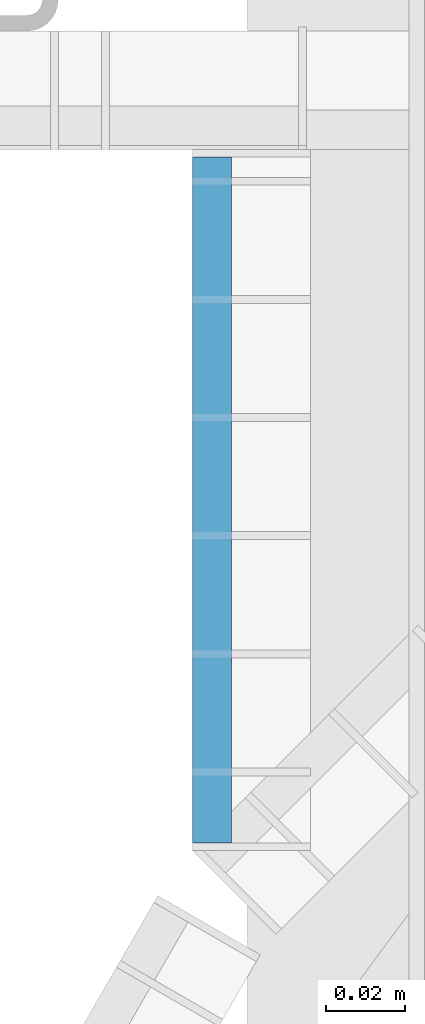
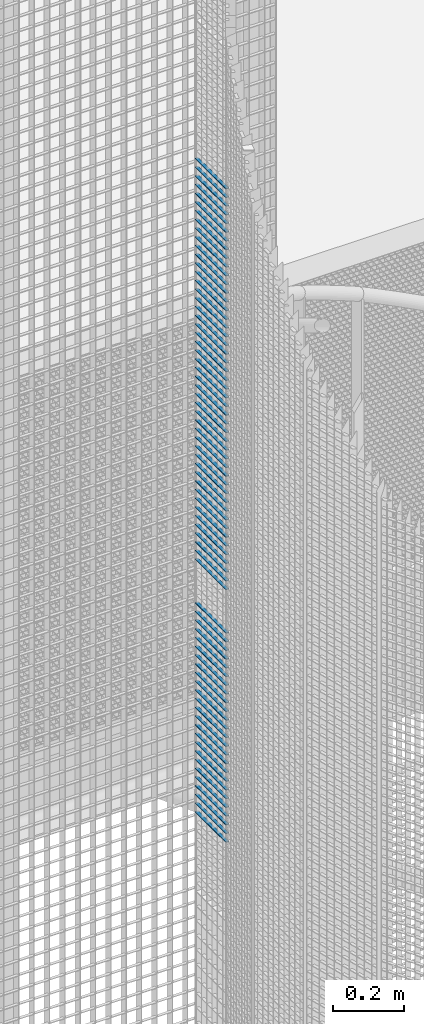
# One storey, part 181 of 1183: 72 beams, 1 element without a shape of its own.
"""IFC2X3 building model written with IfcOpenShell, lengths in millimetres."""

from ifc_helpers import new_model, si_unit, frame, origin_with_axes, origin_2d_with_axis, place, context, subcontext, project, spatial, rectangle, extrude, material, type_object, element, aggregate, save


model = new_model("IFC2X3")

# Units and contexts
model_context = context("Model", 3, precision=1e-05, world=origin_with_axes())
body_context = subcontext(model_context, "Body", "Model", "MODEL_VIEW")
ifc_project = project(units=[si_unit("LENGTHUNIT", "METRE", prefix="MILLI"), si_unit("AREAUNIT", "SQUARE_METRE"), si_unit("VOLUMEUNIT", "CUBIC_METRE"), si_unit("MASSUNIT", "GRAM", prefix="KILO"), si_unit("TIMEUNIT", "SECOND"), si_unit("PLANEANGLEUNIT", "RADIAN"), si_unit("SOLIDANGLEUNIT", "STERADIAN"), si_unit("THERMODYNAMICTEMPERATUREUNIT", "DEGREE_CELSIUS"), si_unit("LUMINOUSINTENSITYUNIT", "LUMEN")], contexts=[model_context])

# Site, building, storey
site_placement = place(None, origin_with_axes())
site = spatial("IfcSite", under=ifc_project, at=site_placement, Name="Undefined", CompositionType="ELEMENT")
building_placement = place(site_placement, origin_with_axes())
building = spatial("IfcBuilding", under=site, at=building_placement, Name="Undefined", CompositionType="ELEMENT")
storey_placement = place(building_placement, origin_with_axes())
storey = spatial("IfcBuildingStorey", under=building, at=storey_placement, Name="Undefined", CompositionType="ELEMENT", Elevation=0.0)

# Assembly, beams
assembly_placement = place(storey_placement, origin_with_axes())
assembly = element("IfcElementAssembly", 1, at=assembly_placement, inside=storey, Name="BORDURE", AssemblyPlace="NOTDEFINED", PredefinedType="NOTDEFINED")
ifc_material = material(Name="STEEL/S235JR")
beam_type = type_object("IfcBeamType", Name="PL2*10", PredefinedType="NOTDEFINED")
beam_1_placement = place(assembly_placement, frame((-884.882567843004, 867.997017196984, 8520.0), z_axis=(-1.0, 0.0, 0.0), x_axis=(0.0, -1.0, 0.0)))
beam_1 = element("IfcBeam", 2, at=beam_1_placement, type_object=beam_type, material=ifc_material, Name="ENTRETOISE", context=body_context, shape_type="SweptSolid", body=[
    extrude(rectangle(XDim=2.0, YDim=10.0, at=origin_2d_with_axis()), frame((174.109999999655, 0.0, 0.0), z_axis=(-1.0, 0.0, 0.0), x_axis=(0.0, -1.0, 0.0)), (0.0, 0.0, 1.0), 174.11),
])
beam_2_placement = place(assembly_placement, frame((-884.882567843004, 867.997017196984, 8490.0), z_axis=(-1.0, 0.0, 0.0), x_axis=(0.0, -1.0, 0.0)))
beam_2 = element("IfcBeam", 3, at=beam_2_placement, type_object=beam_type, material=ifc_material, Name="ENTRETOISE", context=body_context, shape_type="SweptSolid", body=[
    extrude(rectangle(XDim=2.0, YDim=10.0, at=origin_2d_with_axis()), frame((174.109999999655, 0.0, 0.0), z_axis=(-1.0, 0.0, 0.0), x_axis=(0.0, -1.0, 0.0)), (0.0, 0.0, 1.0), 174.11),
])
beam_3_placement = place(assembly_placement, frame((-884.882567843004, 867.997017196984, 8460.0), z_axis=(-1.0, 0.0, 0.0), x_axis=(0.0, -1.0, 0.0)))
beam_3 = element("IfcBeam", 4, at=beam_3_placement, type_object=beam_type, material=ifc_material, Name="ENTRETOISE", context=body_context, shape_type="SweptSolid", body=[
    extrude(rectangle(XDim=2.0, YDim=10.0, at=origin_2d_with_axis()), frame((174.109999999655, 0.0, 0.0), z_axis=(-1.0, 0.0, 0.0), x_axis=(0.0, -1.0, 0.0)), (0.0, 0.0, 1.0), 174.11),
])
beam_4_placement = place(assembly_placement, frame((-884.882567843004, 867.997017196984, 8430.0), z_axis=(-1.0, 0.0, 0.0), x_axis=(0.0, -1.0, 0.0)))
beam_4 = element("IfcBeam", 5, at=beam_4_placement, type_object=beam_type, material=ifc_material, Name="ENTRETOISE", context=body_context, shape_type="SweptSolid", body=[
    extrude(rectangle(XDim=2.0, YDim=10.0, at=origin_2d_with_axis()), frame((174.109999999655, 0.0, 0.0), z_axis=(-1.0, 0.0, 0.0), x_axis=(0.0, -1.0, 0.0)), (0.0, 0.0, 1.0), 174.11),
])
beam_5_placement = place(assembly_placement, frame((-884.882567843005, 867.997017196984, 8400.0), z_axis=(-1.0, 0.0, 0.0), x_axis=(0.0, -1.0, 0.0)))
beam_5 = element("IfcBeam", 6, at=beam_5_placement, type_object=beam_type, material=ifc_material, Name="ENTRETOISE", context=body_context, shape_type="SweptSolid", body=[
    extrude(rectangle(XDim=2.0, YDim=10.0, at=origin_2d_with_axis()), frame((174.109999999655, 0.0, 0.0), z_axis=(-1.0, 0.0, 0.0), x_axis=(0.0, -1.0, 0.0)), (0.0, 0.0, 1.0), 174.11),
])
beam_6_placement = place(assembly_placement, frame((-884.882567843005, 867.997017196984, 8370.0), z_axis=(-1.0, 0.0, 0.0), x_axis=(0.0, -1.0, 0.0)))
beam_6 = element("IfcBeam", 7, at=beam_6_placement, type_object=beam_type, material=ifc_material, Name="ENTRETOISE", context=body_context, shape_type="SweptSolid", body=[
    extrude(rectangle(XDim=2.0, YDim=10.0, at=origin_2d_with_axis()), frame((174.109999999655, 0.0, 0.0), z_axis=(-1.0, 0.0, 0.0), x_axis=(0.0, -1.0, 0.0)), (0.0, 0.0, 1.0), 174.11),
])
beam_7_placement = place(assembly_placement, frame((-884.882567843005, 867.997017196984, 8340.0), z_axis=(-1.0, 0.0, 0.0), x_axis=(0.0, -1.0, 0.0)))
beam_7 = element("IfcBeam", 8, at=beam_7_placement, type_object=beam_type, material=ifc_material, Name="ENTRETOISE", context=body_context, shape_type="SweptSolid", body=[
    extrude(rectangle(XDim=2.0, YDim=10.0, at=origin_2d_with_axis()), frame((174.109999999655, 0.0, 0.0), z_axis=(-1.0, 0.0, 0.0), x_axis=(0.0, -1.0, 0.0)), (0.0, 0.0, 1.0), 174.11),
])
beam_8_placement = place(assembly_placement, frame((-884.882567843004, 867.997017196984, 8310.0), z_axis=(-1.0, 0.0, 0.0), x_axis=(0.0, -1.0, 0.0)))
beam_8 = element("IfcBeam", 9, at=beam_8_placement, type_object=beam_type, material=ifc_material, Name="ENTRETOISE", context=body_context, shape_type="SweptSolid", body=[
    extrude(rectangle(XDim=2.0, YDim=10.0, at=origin_2d_with_axis()), frame((174.109999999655, 0.0, 0.0), z_axis=(-1.0, 0.0, 0.0), x_axis=(0.0, -1.0, 0.0)), (0.0, 0.0, 1.0), 174.11),
])
beam_9_placement = place(assembly_placement, frame((-884.882567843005, 867.997017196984, 8280.0), z_axis=(-1.0, 0.0, 0.0), x_axis=(0.0, -1.0, 0.0)))
beam_9 = element("IfcBeam", 10, at=beam_9_placement, type_object=beam_type, material=ifc_material, Name="ENTRETOISE", context=body_context, shape_type="SweptSolid", body=[
    extrude(rectangle(XDim=2.0, YDim=10.0, at=origin_2d_with_axis()), frame((174.109999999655, 0.0, 0.0), z_axis=(-1.0, 0.0, 0.0), x_axis=(0.0, -1.0, 0.0)), (0.0, 0.0, 1.0), 174.11),
])
beam_10_placement = place(assembly_placement, frame((-884.882567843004, 867.997017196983, 8250.0), z_axis=(-1.0, 0.0, 0.0), x_axis=(0.0, -1.0, 0.0)))
beam_10 = element("IfcBeam", 11, at=beam_10_placement, type_object=beam_type, material=ifc_material, Name="ENTRETOISE", context=body_context, shape_type="SweptSolid", body=[
    extrude(rectangle(XDim=2.0, YDim=10.0, at=origin_2d_with_axis()), frame((174.109999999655, 0.0, 0.0), z_axis=(-1.0, 0.0, 0.0), x_axis=(0.0, -1.0, 0.0)), (0.0, 0.0, 1.0), 174.11),
])
beam_11_placement = place(assembly_placement, frame((-884.882567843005, 867.997017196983, 8220.0), z_axis=(-1.0, 0.0, 0.0), x_axis=(0.0, -1.0, 0.0)))
beam_11 = element("IfcBeam", 12, at=beam_11_placement, type_object=beam_type, material=ifc_material, Name="ENTRETOISE", context=body_context, shape_type="SweptSolid", body=[
    extrude(rectangle(XDim=2.0, YDim=10.0, at=origin_2d_with_axis()), frame((174.109999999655, 0.0, 0.0), z_axis=(-1.0, 0.0, 0.0), x_axis=(0.0, -1.0, 0.0)), (0.0, 0.0, 1.0), 174.11),
])
beam_12_placement = place(assembly_placement, frame((-884.882567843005, 867.997017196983, 8190.0), z_axis=(-1.0, 0.0, 0.0), x_axis=(0.0, -1.0, 0.0)))
beam_12 = element("IfcBeam", 13, at=beam_12_placement, type_object=beam_type, material=ifc_material, Name="ENTRETOISE", context=body_context, shape_type="SweptSolid", body=[
    extrude(rectangle(XDim=2.0, YDim=10.0, at=origin_2d_with_axis()), frame((174.109999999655, 0.0, 0.0), z_axis=(-1.0, 0.0, 0.0), x_axis=(0.0, -1.0, 0.0)), (0.0, 0.0, 1.0), 174.11),
])
beam_13_placement = place(assembly_placement, frame((-884.882567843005, 867.997017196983, 8160.0), z_axis=(-1.0, 0.0, 0.0), x_axis=(0.0, -1.0, 0.0)))
beam_13 = element("IfcBeam", 14, at=beam_13_placement, type_object=beam_type, material=ifc_material, Name="ENTRETOISE", context=body_context, shape_type="SweptSolid", body=[
    extrude(rectangle(XDim=2.0, YDim=10.0, at=origin_2d_with_axis()), frame((174.109999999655, 0.0, 0.0), z_axis=(-1.0, 0.0, 0.0), x_axis=(0.0, -1.0, 0.0)), (0.0, 0.0, 1.0), 174.11),
])
beam_14_placement = place(assembly_placement, frame((-884.882567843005, 867.997017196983, 8130.0), z_axis=(-1.0, 0.0, 0.0), x_axis=(0.0, -1.0, 0.0)))
beam_14 = element("IfcBeam", 15, at=beam_14_placement, type_object=beam_type, material=ifc_material, Name="ENTRETOISE", context=body_context, shape_type="SweptSolid", body=[
    extrude(rectangle(XDim=2.0, YDim=10.0, at=origin_2d_with_axis()), frame((174.109999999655, 0.0, 0.0), z_axis=(-1.0, 0.0, 0.0), x_axis=(0.0, -1.0, 0.0)), (0.0, 0.0, 1.0), 174.11),
])
beam_15_placement = place(assembly_placement, frame((-884.882567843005, 867.997017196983, 8100.0), z_axis=(-1.0, 0.0, 0.0), x_axis=(0.0, -1.0, 0.0)))
beam_15 = element("IfcBeam", 16, at=beam_15_placement, type_object=beam_type, material=ifc_material, Name="ENTRETOISE", context=body_context, shape_type="SweptSolid", body=[
    extrude(rectangle(XDim=2.0, YDim=10.0, at=origin_2d_with_axis()), frame((174.109999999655, 0.0, 0.0), z_axis=(-1.0, 0.0, 0.0), x_axis=(0.0, -1.0, 0.0)), (0.0, 0.0, 1.0), 174.11),
])
beam_16_placement = place(assembly_placement, frame((-884.882567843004, 867.997017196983, 8070.0), z_axis=(-1.0, 0.0, 0.0), x_axis=(0.0, -1.0, 0.0)))
beam_16 = element("IfcBeam", 17, at=beam_16_placement, type_object=beam_type, material=ifc_material, Name="ENTRETOISE", context=body_context, shape_type="SweptSolid", body=[
    extrude(rectangle(XDim=2.0, YDim=10.0, at=origin_2d_with_axis()), frame((174.109999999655, 0.0, 0.0), z_axis=(-1.0, 0.0, 0.0), x_axis=(0.0, -1.0, 0.0)), (0.0, 0.0, 1.0), 174.11),
])
beam_17_placement = place(assembly_placement, frame((-884.882567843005, 867.997017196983, 8040.0), z_axis=(-1.0, 0.0, 0.0), x_axis=(0.0, -1.0, 0.0)))
beam_17 = element("IfcBeam", 18, at=beam_17_placement, type_object=beam_type, material=ifc_material, Name="ENTRETOISE", context=body_context, shape_type="SweptSolid", body=[
    extrude(rectangle(XDim=2.0, YDim=10.0, at=origin_2d_with_axis()), frame((174.109999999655, 0.0, 0.0), z_axis=(-1.0, 0.0, 0.0), x_axis=(0.0, -1.0, 0.0)), (0.0, 0.0, 1.0), 174.11),
])
beam_18_placement = place(assembly_placement, frame((-884.882567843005, 867.997017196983, 8010.0), z_axis=(-1.0, 0.0, 0.0), x_axis=(0.0, -1.0, 0.0)))
beam_18 = element("IfcBeam", 19, at=beam_18_placement, type_object=beam_type, material=ifc_material, Name="ENTRETOISE", context=body_context, shape_type="SweptSolid", body=[
    extrude(rectangle(XDim=2.0, YDim=10.0, at=origin_2d_with_axis()), frame((174.109999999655, 0.0, 0.0), z_axis=(-1.0, 0.0, 0.0), x_axis=(0.0, -1.0, 0.0)), (0.0, 0.0, 1.0), 174.11),
])
beam_19_placement = place(assembly_placement, frame((-884.882567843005, 867.997017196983, 7980.0), z_axis=(-1.0, 0.0, 0.0), x_axis=(0.0, -1.0, 0.0)))
beam_19 = element("IfcBeam", 20, at=beam_19_placement, type_object=beam_type, material=ifc_material, Name="ENTRETOISE", context=body_context, shape_type="SweptSolid", body=[
    extrude(rectangle(XDim=2.0, YDim=10.0, at=origin_2d_with_axis()), frame((174.109999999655, 0.0, 0.0), z_axis=(-1.0, 0.0, 0.0), x_axis=(0.0, -1.0, 0.0)), (0.0, 0.0, 1.0), 174.11),
])
beam_20_placement = place(assembly_placement, frame((-884.882567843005, 867.997017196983, 7950.0), z_axis=(-1.0, 0.0, 0.0), x_axis=(0.0, -1.0, 0.0)))
beam_20 = element("IfcBeam", 21, at=beam_20_placement, type_object=beam_type, material=ifc_material, Name="ENTRETOISE", context=body_context, shape_type="SweptSolid", body=[
    extrude(rectangle(XDim=2.0, YDim=10.0, at=origin_2d_with_axis()), frame((174.109999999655, 0.0, 0.0), z_axis=(-1.0, 0.0, 0.0), x_axis=(0.0, -1.0, 0.0)), (0.0, 0.0, 1.0), 174.11),
])
beam_21_placement = place(assembly_placement, frame((-884.882567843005, 867.997017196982, 7920.0), z_axis=(-1.0, 0.0, 0.0), x_axis=(0.0, -1.0, 0.0)))
beam_21 = element("IfcBeam", 22, at=beam_21_placement, type_object=beam_type, material=ifc_material, Name="ENTRETOISE", context=body_context, shape_type="SweptSolid", body=[
    extrude(rectangle(XDim=2.0, YDim=10.0, at=origin_2d_with_axis()), frame((174.109999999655, 0.0, 0.0), z_axis=(-1.0, 0.0, 0.0), x_axis=(0.0, -1.0, 0.0)), (0.0, 0.0, 1.0), 174.11),
])
beam_22_placement = place(assembly_placement, frame((-884.882567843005, 867.997017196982, 7890.0), z_axis=(-1.0, 0.0, 0.0), x_axis=(0.0, -1.0, 0.0)))
beam_22 = element("IfcBeam", 23, at=beam_22_placement, type_object=beam_type, material=ifc_material, Name="ENTRETOISE", context=body_context, shape_type="SweptSolid", body=[
    extrude(rectangle(XDim=2.0, YDim=10.0, at=origin_2d_with_axis()), frame((174.109999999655, 0.0, 0.0), z_axis=(-1.0, 0.0, 0.0), x_axis=(0.0, -1.0, 0.0)), (0.0, 0.0, 1.0), 174.11),
])
beam_23_placement = place(assembly_placement, frame((-884.882567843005, 867.997017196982, 7860.0), z_axis=(-1.0, 0.0, 0.0), x_axis=(0.0, -1.0, 0.0)))
beam_23 = element("IfcBeam", 24, at=beam_23_placement, type_object=beam_type, material=ifc_material, Name="ENTRETOISE", context=body_context, shape_type="SweptSolid", body=[
    extrude(rectangle(XDim=2.0, YDim=10.0, at=origin_2d_with_axis()), frame((174.109999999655, 0.0, 0.0), z_axis=(-1.0, 0.0, 0.0), x_axis=(0.0, -1.0, 0.0)), (0.0, 0.0, 1.0), 174.11),
])
beam_24_placement = place(assembly_placement, frame((-884.882567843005, 867.997017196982, 7830.0), z_axis=(-1.0, 0.0, 0.0), x_axis=(0.0, -1.0, 0.0)))
beam_24 = element("IfcBeam", 25, at=beam_24_placement, type_object=beam_type, material=ifc_material, Name="ENTRETOISE", context=body_context, shape_type="SweptSolid", body=[
    extrude(rectangle(XDim=2.0, YDim=10.0, at=origin_2d_with_axis()), frame((174.109999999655, 0.0, 0.0), z_axis=(-1.0, 0.0, 0.0), x_axis=(0.0, -1.0, 0.0)), (0.0, 0.0, 1.0), 174.11),
])
beam_25_placement = place(assembly_placement, frame((-884.882567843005, 867.997017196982, 7800.0), z_axis=(-1.0, 0.0, 0.0), x_axis=(0.0, -1.0, 0.0)))
beam_25 = element("IfcBeam", 26, at=beam_25_placement, type_object=beam_type, material=ifc_material, Name="ENTRETOISE", context=body_context, shape_type="SweptSolid", body=[
    extrude(rectangle(XDim=2.0, YDim=10.0, at=origin_2d_with_axis()), frame((174.109999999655, 0.0, 0.0), z_axis=(-1.0, 0.0, 0.0), x_axis=(0.0, -1.0, 0.0)), (0.0, 0.0, 1.0), 174.11),
])
beam_26_placement = place(assembly_placement, frame((-884.882567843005, 867.997017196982, 7770.0), z_axis=(-1.0, 0.0, 0.0), x_axis=(0.0, -1.0, 0.0)))
beam_26 = element("IfcBeam", 27, at=beam_26_placement, type_object=beam_type, material=ifc_material, Name="ENTRETOISE", context=body_context, shape_type="SweptSolid", body=[
    extrude(rectangle(XDim=2.0, YDim=10.0, at=origin_2d_with_axis()), frame((174.109999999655, 0.0, 0.0), z_axis=(-1.0, 0.0, 0.0), x_axis=(0.0, -1.0, 0.0)), (0.0, 0.0, 1.0), 174.11),
])
beam_27_placement = place(assembly_placement, frame((-884.882567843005, 867.997017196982, 7740.0), z_axis=(-1.0, 0.0, 0.0), x_axis=(0.0, -1.0, 0.0)))
beam_27 = element("IfcBeam", 28, at=beam_27_placement, type_object=beam_type, material=ifc_material, Name="ENTRETOISE", context=body_context, shape_type="SweptSolid", body=[
    extrude(rectangle(XDim=2.0, YDim=10.0, at=origin_2d_with_axis()), frame((174.109999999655, 0.0, 0.0), z_axis=(-1.0, 0.0, 0.0), x_axis=(0.0, -1.0, 0.0)), (0.0, 0.0, 1.0), 174.11),
])
beam_28_placement = place(assembly_placement, frame((-884.882567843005, 867.997017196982, 7710.0), z_axis=(-1.0, 0.0, 0.0), x_axis=(0.0, -1.0, 0.0)))
beam_28 = element("IfcBeam", 29, at=beam_28_placement, type_object=beam_type, material=ifc_material, Name="ENTRETOISE", context=body_context, shape_type="SweptSolid", body=[
    extrude(rectangle(XDim=2.0, YDim=10.0, at=origin_2d_with_axis()), frame((174.109999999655, 0.0, 0.0), z_axis=(-1.0, 0.0, 0.0), x_axis=(0.0, -1.0, 0.0)), (0.0, 0.0, 1.0), 174.11),
])
beam_29_placement = place(assembly_placement, frame((-884.882567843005, 867.997017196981, 7680.0), z_axis=(-1.0, 0.0, 0.0), x_axis=(0.0, -1.0, 0.0)))
beam_29 = element("IfcBeam", 30, at=beam_29_placement, type_object=beam_type, material=ifc_material, Name="ENTRETOISE", context=body_context, shape_type="SweptSolid", body=[
    extrude(rectangle(XDim=2.0, YDim=10.0, at=origin_2d_with_axis()), frame((174.109999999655, 0.0, 0.0), z_axis=(-1.0, 0.0, 0.0), x_axis=(0.0, -1.0, 0.0)), (0.0, 0.0, 1.0), 174.11),
])
beam_30_placement = place(assembly_placement, frame((-884.882567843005, 867.997017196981, 7650.0), z_axis=(-1.0, 0.0, 0.0), x_axis=(0.0, -1.0, 0.0)))
beam_30 = element("IfcBeam", 31, at=beam_30_placement, type_object=beam_type, material=ifc_material, Name="ENTRETOISE", context=body_context, shape_type="SweptSolid", body=[
    extrude(rectangle(XDim=2.0, YDim=10.0, at=origin_2d_with_axis()), frame((174.109999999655, 0.0, 0.0), z_axis=(-1.0, 0.0, 0.0), x_axis=(0.0, -1.0, 0.0)), (0.0, 0.0, 1.0), 174.11),
])
beam_31_placement = place(assembly_placement, frame((-884.882567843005, 867.997017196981, 7620.0), z_axis=(-1.0, 0.0, 0.0), x_axis=(0.0, -1.0, 0.0)))
beam_31 = element("IfcBeam", 32, at=beam_31_placement, type_object=beam_type, material=ifc_material, Name="ENTRETOISE", context=body_context, shape_type="SweptSolid", body=[
    extrude(rectangle(XDim=2.0, YDim=10.0, at=origin_2d_with_axis()), frame((174.109999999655, 0.0, 0.0), z_axis=(-1.0, 0.0, 0.0), x_axis=(0.0, -1.0, 0.0)), (0.0, 0.0, 1.0), 174.11),
])
beam_32_placement = place(assembly_placement, frame((-884.882567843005, 867.997017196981, 7590.0), z_axis=(-1.0, 0.0, 0.0), x_axis=(0.0, -1.0, 0.0)))
beam_32 = element("IfcBeam", 33, at=beam_32_placement, type_object=beam_type, material=ifc_material, Name="ENTRETOISE", context=body_context, shape_type="SweptSolid", body=[
    extrude(rectangle(XDim=2.0, YDim=10.0, at=origin_2d_with_axis()), frame((174.109999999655, 0.0, 0.0), z_axis=(-1.0, 0.0, 0.0), x_axis=(0.0, -1.0, 0.0)), (0.0, 0.0, 1.0), 174.11),
])
beam_33_placement = place(assembly_placement, frame((-884.882567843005, 867.997017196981, 7560.0), z_axis=(-1.0, 0.0, 0.0), x_axis=(0.0, -1.0, 0.0)))
beam_33 = element("IfcBeam", 34, at=beam_33_placement, type_object=beam_type, material=ifc_material, Name="ENTRETOISE", context=body_context, shape_type="SweptSolid", body=[
    extrude(rectangle(XDim=2.0, YDim=10.0, at=origin_2d_with_axis()), frame((174.109999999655, 0.0, 0.0), z_axis=(-1.0, 0.0, 0.0), x_axis=(0.0, -1.0, 0.0)), (0.0, 0.0, 1.0), 174.11),
])
beam_34_placement = place(assembly_placement, frame((-884.882567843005, 867.997017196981, 7530.0), z_axis=(-1.0, 0.0, 0.0), x_axis=(0.0, -1.0, 0.0)))
beam_34 = element("IfcBeam", 35, at=beam_34_placement, type_object=beam_type, material=ifc_material, Name="ENTRETOISE", context=body_context, shape_type="SweptSolid", body=[
    extrude(rectangle(XDim=2.0, YDim=10.0, at=origin_2d_with_axis()), frame((174.109999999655, 0.0, 0.0), z_axis=(-1.0, 0.0, 0.0), x_axis=(0.0, -1.0, 0.0)), (0.0, 0.0, 1.0), 174.11),
])
beam_35_placement = place(assembly_placement, frame((-884.882567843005, 867.997017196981, 7500.0), z_axis=(-1.0, 0.0, 0.0), x_axis=(0.0, -1.0, 0.0)))
beam_35 = element("IfcBeam", 36, at=beam_35_placement, type_object=beam_type, material=ifc_material, Name="ENTRETOISE", context=body_context, shape_type="SweptSolid", body=[
    extrude(rectangle(XDim=2.0, YDim=10.0, at=origin_2d_with_axis()), frame((174.109999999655, 0.0, 0.0), z_axis=(-1.0, 0.0, 0.0), x_axis=(0.0, -1.0, 0.0)), (0.0, 0.0, 1.0), 174.11),
])
beam_36_placement = place(assembly_placement, frame((-884.882567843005, 867.997017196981, 7470.0), z_axis=(-1.0, 0.0, 0.0), x_axis=(0.0, -1.0, 0.0)))
beam_36 = element("IfcBeam", 37, at=beam_36_placement, type_object=beam_type, material=ifc_material, Name="ENTRETOISE", context=body_context, shape_type="SweptSolid", body=[
    extrude(rectangle(XDim=2.0, YDim=10.0, at=origin_2d_with_axis()), frame((174.109999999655, 0.0, 0.0), z_axis=(-1.0, 0.0, 0.0), x_axis=(0.0, -1.0, 0.0)), (0.0, 0.0, 1.0), 174.11),
])
beam_37_placement = place(assembly_placement, frame((-884.882567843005, 867.997017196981, 7440.0), z_axis=(-1.0, 0.0, 0.0), x_axis=(0.0, -1.0, 0.0)))
beam_37 = element("IfcBeam", 38, at=beam_37_placement, type_object=beam_type, material=ifc_material, Name="ENTRETOISE", context=body_context, shape_type="SweptSolid", body=[
    extrude(rectangle(XDim=2.0, YDim=10.0, at=origin_2d_with_axis()), frame((174.109999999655, 0.0, 0.0), z_axis=(-1.0, 0.0, 0.0), x_axis=(0.0, -1.0, 0.0)), (0.0, 0.0, 1.0), 174.11),
])
beam_38_placement = place(assembly_placement, frame((-884.882567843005, 867.997017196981, 7410.0), z_axis=(-1.0, 0.0, 0.0), x_axis=(0.0, -1.0, 0.0)))
beam_38 = element("IfcBeam", 39, at=beam_38_placement, type_object=beam_type, material=ifc_material, Name="ENTRETOISE", context=body_context, shape_type="SweptSolid", body=[
    extrude(rectangle(XDim=2.0, YDim=10.0, at=origin_2d_with_axis()), frame((174.109999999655, 0.0, 0.0), z_axis=(-1.0, 0.0, 0.0), x_axis=(0.0, -1.0, 0.0)), (0.0, 0.0, 1.0), 174.11),
])
beam_39_placement = place(assembly_placement, frame((-884.882567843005, 867.99701719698, 7380.0), z_axis=(-1.0, 0.0, 0.0), x_axis=(0.0, -1.0, 0.0)))
beam_39 = element("IfcBeam", 40, at=beam_39_placement, type_object=beam_type, material=ifc_material, Name="ENTRETOISE", context=body_context, shape_type="SweptSolid", body=[
    extrude(rectangle(XDim=2.0, YDim=10.0, at=origin_2d_with_axis()), frame((174.109999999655, 0.0, 0.0), z_axis=(-1.0, 0.0, 0.0), x_axis=(0.0, -1.0, 0.0)), (0.0, 0.0, 1.0), 174.11),
])
beam_40_placement = place(assembly_placement, frame((-884.882567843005, 867.99701719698, 7350.0), z_axis=(-1.0, 0.0, 0.0), x_axis=(0.0, -1.0, 0.0)))
beam_40 = element("IfcBeam", 41, at=beam_40_placement, type_object=beam_type, material=ifc_material, Name="ENTRETOISE", context=body_context, shape_type="SweptSolid", body=[
    extrude(rectangle(XDim=2.0, YDim=10.0, at=origin_2d_with_axis()), frame((174.109999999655, 0.0, 0.0), z_axis=(-1.0, 0.0, 0.0), x_axis=(0.0, -1.0, 0.0)), (0.0, 0.0, 1.0), 174.11),
])
beam_41_placement = place(assembly_placement, frame((-884.882567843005, 867.99701719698, 7320.0), z_axis=(-1.0, 0.0, 0.0), x_axis=(0.0, -1.0, 0.0)))
beam_41 = element("IfcBeam", 42, at=beam_41_placement, type_object=beam_type, material=ifc_material, Name="ENTRETOISE", context=body_context, shape_type="SweptSolid", body=[
    extrude(rectangle(XDim=2.0, YDim=10.0, at=origin_2d_with_axis()), frame((174.109999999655, 0.0, 0.0), z_axis=(-1.0, 0.0, 0.0), x_axis=(0.0, -1.0, 0.0)), (0.0, 0.0, 1.0), 174.11),
])
beam_42_placement = place(assembly_placement, frame((-884.882567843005, 867.99701719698, 7290.0), z_axis=(-1.0, 0.0, 0.0), x_axis=(0.0, -1.0, 0.0)))
beam_42 = element("IfcBeam", 43, at=beam_42_placement, type_object=beam_type, material=ifc_material, Name="ENTRETOISE", context=body_context, shape_type="SweptSolid", body=[
    extrude(rectangle(XDim=2.0, YDim=10.0, at=origin_2d_with_axis()), frame((174.109999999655, 0.0, 0.0), z_axis=(-1.0, 0.0, 0.0), x_axis=(0.0, -1.0, 0.0)), (0.0, 0.0, 1.0), 174.11),
])
beam_43_placement = place(assembly_placement, frame((-884.882567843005, 867.99701719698, 7260.0), z_axis=(-1.0, 0.0, 0.0), x_axis=(0.0, -1.0, 0.0)))
beam_43 = element("IfcBeam", 44, at=beam_43_placement, type_object=beam_type, material=ifc_material, Name="ENTRETOISE", context=body_context, shape_type="SweptSolid", body=[
    extrude(rectangle(XDim=2.0, YDim=10.0, at=origin_2d_with_axis()), frame((174.109999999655, 0.0, 0.0), z_axis=(-1.0, 0.0, 0.0), x_axis=(0.0, -1.0, 0.0)), (0.0, 0.0, 1.0), 174.11),
])
beam_44_placement = place(assembly_placement, frame((-884.882567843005, 867.99701719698, 7230.0), z_axis=(-1.0, 0.0, 0.0), x_axis=(0.0, -1.0, 0.0)))
beam_44 = element("IfcBeam", 45, at=beam_44_placement, type_object=beam_type, material=ifc_material, Name="ENTRETOISE", context=body_context, shape_type="SweptSolid", body=[
    extrude(rectangle(XDim=2.0, YDim=10.0, at=origin_2d_with_axis()), frame((174.109999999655, 0.0, 0.0), z_axis=(-1.0, 0.0, 0.0), x_axis=(0.0, -1.0, 0.0)), (0.0, 0.0, 1.0), 174.11),
])
beam_45_placement = place(assembly_placement, frame((-884.882567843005, 867.99701719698, 7200.0), z_axis=(-1.0, 0.0, 0.0), x_axis=(0.0, -1.0, 0.0)))
beam_45 = element("IfcBeam", 46, at=beam_45_placement, type_object=beam_type, material=ifc_material, Name="ENTRETOISE", context=body_context, shape_type="SweptSolid", body=[
    extrude(rectangle(XDim=2.0, YDim=10.0, at=origin_2d_with_axis()), frame((174.109999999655, 0.0, 0.0), z_axis=(-1.0, 0.0, 0.0), x_axis=(0.0, -1.0, 0.0)), (0.0, 0.0, 1.0), 174.11),
])
beam_46_placement = place(assembly_placement, frame((-884.882567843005, 867.99701719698, 7170.0), z_axis=(-1.0, 0.0, 0.0), x_axis=(0.0, -1.0, 0.0)))
beam_46 = element("IfcBeam", 47, at=beam_46_placement, type_object=beam_type, material=ifc_material, Name="ENTRETOISE", context=body_context, shape_type="SweptSolid", body=[
    extrude(rectangle(XDim=2.0, YDim=10.0, at=origin_2d_with_axis()), frame((174.109999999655, 0.0, 0.0), z_axis=(-1.0, 0.0, 0.0), x_axis=(0.0, -1.0, 0.0)), (0.0, 0.0, 1.0), 174.11),
])
beam_47_placement = place(assembly_placement, frame((-884.882567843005, 867.99701719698, 7140.0), z_axis=(-1.0, 0.0, 0.0), x_axis=(0.0, -1.0, 0.0)))
beam_47 = element("IfcBeam", 48, at=beam_47_placement, type_object=beam_type, material=ifc_material, Name="ENTRETOISE", context=body_context, shape_type="SweptSolid", body=[
    extrude(rectangle(XDim=2.0, YDim=10.0, at=origin_2d_with_axis()), frame((174.109999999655, 0.0, 0.0), z_axis=(-1.0, 0.0, 0.0), x_axis=(0.0, -1.0, 0.0)), (0.0, 0.0, 1.0), 174.11),
])
beam_48_placement = place(assembly_placement, frame((-884.882567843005, 867.997017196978, 6720.0), z_axis=(-1.0, 0.0, 0.0), x_axis=(0.0, -1.0, 0.0)))
beam_48 = element("IfcBeam", 49, at=beam_48_placement, type_object=beam_type, material=ifc_material, Name="ENTRETOISE", context=body_context, shape_type="SweptSolid", body=[
    extrude(rectangle(XDim=2.0, YDim=10.0, at=origin_2d_with_axis()), frame((174.109999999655, 0.0, 0.0), z_axis=(-1.0, 0.0, 0.0), x_axis=(0.0, -1.0, 0.0)), (0.0, 0.0, 1.0), 174.11),
])
beam_49_placement = place(assembly_placement, frame((-884.882567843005, 867.997017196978, 6690.0), z_axis=(-1.0, 0.0, 0.0), x_axis=(0.0, -1.0, 0.0)))
beam_49 = element("IfcBeam", 50, at=beam_49_placement, type_object=beam_type, material=ifc_material, Name="ENTRETOISE", context=body_context, shape_type="SweptSolid", body=[
    extrude(rectangle(XDim=2.0, YDim=10.0, at=origin_2d_with_axis()), frame((174.109999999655, 0.0, 0.0), z_axis=(-1.0, 0.0, 0.0), x_axis=(0.0, -1.0, 0.0)), (0.0, 0.0, 1.0), 174.11),
])
beam_50_placement = place(assembly_placement, frame((-884.882567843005, 867.997017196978, 6750.0), z_axis=(-1.0, 0.0, 0.0), x_axis=(0.0, -1.0, 0.0)))
beam_50 = element("IfcBeam", 51, at=beam_50_placement, type_object=beam_type, material=ifc_material, Name="ENTRETOISE", context=body_context, shape_type="SweptSolid", body=[
    extrude(rectangle(XDim=2.0, YDim=10.0, at=origin_2d_with_axis()), frame((174.109999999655, 0.0, 0.0), z_axis=(-1.0, 0.0, 0.0), x_axis=(0.0, -1.0, 0.0)), (0.0, 0.0, 1.0), 174.11),
])
beam_51_placement = place(assembly_placement, frame((-884.882567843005, 867.997017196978, 6660.0), z_axis=(-1.0, 0.0, 0.0), x_axis=(0.0, -1.0, 0.0)))
beam_51 = element("IfcBeam", 52, at=beam_51_placement, type_object=beam_type, material=ifc_material, Name="ENTRETOISE", context=body_context, shape_type="SweptSolid", body=[
    extrude(rectangle(XDim=2.0, YDim=10.0, at=origin_2d_with_axis()), frame((174.109999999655, 0.0, 0.0), z_axis=(-1.0, 0.0, 0.0), x_axis=(0.0, -1.0, 0.0)), (0.0, 0.0, 1.0), 174.11),
])
beam_52_placement = place(assembly_placement, frame((-884.882567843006, 867.997017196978, 6630.0), z_axis=(-1.0, 0.0, 0.0), x_axis=(0.0, -1.0, 0.0)))
beam_52 = element("IfcBeam", 53, at=beam_52_placement, type_object=beam_type, material=ifc_material, Name="ENTRETOISE", context=body_context, shape_type="SweptSolid", body=[
    extrude(rectangle(XDim=2.0, YDim=10.0, at=origin_2d_with_axis()), frame((174.109999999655, 0.0, 0.0), z_axis=(-1.0, 0.0, 0.0), x_axis=(0.0, -1.0, 0.0)), (0.0, 0.0, 1.0), 174.11),
])
beam_53_placement = place(assembly_placement, frame((-884.882567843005, 867.997017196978, 6780.0), z_axis=(-1.0, 0.0, 0.0), x_axis=(0.0, -1.0, 0.0)))
beam_53 = element("IfcBeam", 54, at=beam_53_placement, type_object=beam_type, material=ifc_material, Name="ENTRETOISE", context=body_context, shape_type="SweptSolid", body=[
    extrude(rectangle(XDim=2.0, YDim=10.0, at=origin_2d_with_axis()), frame((174.109999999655, 0.0, 0.0), z_axis=(-1.0, 0.0, 0.0), x_axis=(0.0, -1.0, 0.0)), (0.0, 0.0, 1.0), 174.11),
])
beam_54_placement = place(assembly_placement, frame((-884.882567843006, 867.997017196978, 6600.0), z_axis=(-1.0, 0.0, 0.0), x_axis=(0.0, -1.0, 0.0)))
beam_54 = element("IfcBeam", 55, at=beam_54_placement, type_object=beam_type, material=ifc_material, Name="ENTRETOISE", context=body_context, shape_type="SweptSolid", body=[
    extrude(rectangle(XDim=2.0, YDim=10.0, at=origin_2d_with_axis()), frame((174.109999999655, 0.0, 0.0), z_axis=(-1.0, 0.0, 0.0), x_axis=(0.0, -1.0, 0.0)), (0.0, 0.0, 1.0), 174.11),
])
beam_55_placement = place(assembly_placement, frame((-884.882567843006, 867.997017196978, 6810.0), z_axis=(-1.0, 0.0, 0.0), x_axis=(0.0, -1.0, 0.0)))
beam_55 = element("IfcBeam", 56, at=beam_55_placement, type_object=beam_type, material=ifc_material, Name="ENTRETOISE", context=body_context, shape_type="SweptSolid", body=[
    extrude(rectangle(XDim=2.0, YDim=10.0, at=origin_2d_with_axis()), frame((174.109999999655, 0.0, 0.0), z_axis=(-1.0, 0.0, 0.0), x_axis=(0.0, -1.0, 0.0)), (0.0, 0.0, 1.0), 174.11),
])
beam_56_placement = place(assembly_placement, frame((-884.882567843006, 867.997017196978, 6570.0), z_axis=(-1.0, 0.0, 0.0), x_axis=(0.0, -1.0, 0.0)))
beam_56 = element("IfcBeam", 57, at=beam_56_placement, type_object=beam_type, material=ifc_material, Name="ENTRETOISE", context=body_context, shape_type="SweptSolid", body=[
    extrude(rectangle(XDim=2.0, YDim=10.0, at=origin_2d_with_axis()), frame((174.109999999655, 0.0, 0.0), z_axis=(-1.0, 0.0, 0.0), x_axis=(0.0, -1.0, 0.0)), (0.0, 0.0, 1.0), 174.11),
])
beam_57_placement = place(assembly_placement, frame((-884.882567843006, 867.997017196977, 6540.0), z_axis=(-1.0, 0.0, 0.0), x_axis=(0.0, -1.0, 0.0)))
beam_57 = element("IfcBeam", 58, at=beam_57_placement, type_object=beam_type, material=ifc_material, Name="ENTRETOISE", context=body_context, shape_type="SweptSolid", body=[
    extrude(rectangle(XDim=2.0, YDim=10.0, at=origin_2d_with_axis()), frame((174.109999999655, 0.0, 0.0), z_axis=(-1.0, 0.0, 0.0), x_axis=(0.0, -1.0, 0.0)), (0.0, 0.0, 1.0), 174.11),
])
beam_58_placement = place(assembly_placement, frame((-884.882567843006, 867.997017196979, 6840.0), z_axis=(-1.0, 0.0, 0.0), x_axis=(0.0, -1.0, 0.0)))
beam_58 = element("IfcBeam", 59, at=beam_58_placement, type_object=beam_type, material=ifc_material, Name="ENTRETOISE", context=body_context, shape_type="SweptSolid", body=[
    extrude(rectangle(XDim=2.0, YDim=10.0, at=origin_2d_with_axis()), frame((174.109999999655, 0.0, 0.0), z_axis=(-1.0, 0.0, 0.0), x_axis=(0.0, -1.0, 0.0)), (0.0, 0.0, 1.0), 174.11),
])
beam_59_placement = place(assembly_placement, frame((-884.882567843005, 867.997017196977, 6510.0), z_axis=(-1.0, 0.0, 0.0), x_axis=(0.0, -1.0, 0.0)))
beam_59 = element("IfcBeam", 60, at=beam_59_placement, type_object=beam_type, material=ifc_material, Name="ENTRETOISE", context=body_context, shape_type="SweptSolid", body=[
    extrude(rectangle(XDim=2.0, YDim=10.0, at=origin_2d_with_axis()), frame((174.109999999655, 0.0, 0.0), z_axis=(-1.0, 0.0, 0.0), x_axis=(0.0, -1.0, 0.0)), (0.0, 0.0, 1.0), 174.11),
])
beam_60_placement = place(assembly_placement, frame((-884.882567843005, 867.997017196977, 6480.0), z_axis=(-1.0, 0.0, 0.0), x_axis=(0.0, -1.0, 0.0)))
beam_60 = element("IfcBeam", 61, at=beam_60_placement, type_object=beam_type, material=ifc_material, Name="ENTRETOISE", context=body_context, shape_type="SweptSolid", body=[
    extrude(rectangle(XDim=2.0, YDim=10.0, at=origin_2d_with_axis()), frame((174.109999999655, 0.0, 0.0), z_axis=(-1.0, 0.0, 0.0), x_axis=(0.0, -1.0, 0.0)), (0.0, 0.0, 1.0), 174.11),
])
beam_61_placement = place(assembly_placement, frame((-884.882567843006, 867.997017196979, 6870.0), z_axis=(-1.0, 0.0, 0.0), x_axis=(0.0, -1.0, 0.0)))
beam_61 = element("IfcBeam", 62, at=beam_61_placement, type_object=beam_type, material=ifc_material, Name="ENTRETOISE", context=body_context, shape_type="SweptSolid", body=[
    extrude(rectangle(XDim=2.0, YDim=10.0, at=origin_2d_with_axis()), frame((174.109999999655, 0.0, 0.0), z_axis=(-1.0, 0.0, 0.0), x_axis=(0.0, -1.0, 0.0)), (0.0, 0.0, 1.0), 174.11),
])
beam_62_placement = place(assembly_placement, frame((-884.882567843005, 867.997017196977, 6450.0), z_axis=(-1.0, 0.0, 0.0), x_axis=(0.0, -1.0, 0.0)))
beam_62 = element("IfcBeam", 63, at=beam_62_placement, type_object=beam_type, material=ifc_material, Name="ENTRETOISE", context=body_context, shape_type="SweptSolid", body=[
    extrude(rectangle(XDim=2.0, YDim=10.0, at=origin_2d_with_axis()), frame((174.109999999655, 0.0, 0.0), z_axis=(-1.0, 0.0, 0.0), x_axis=(0.0, -1.0, 0.0)), (0.0, 0.0, 1.0), 174.11),
])
beam_63_placement = place(assembly_placement, frame((-884.882567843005, 867.997017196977, 6420.0), z_axis=(-1.0, 0.0, 0.0), x_axis=(0.0, -1.0, 0.0)))
beam_63 = element("IfcBeam", 64, at=beam_63_placement, type_object=beam_type, material=ifc_material, Name="ENTRETOISE", context=body_context, shape_type="SweptSolid", body=[
    extrude(rectangle(XDim=2.0, YDim=10.0, at=origin_2d_with_axis()), frame((174.109999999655, 0.0, 0.0), z_axis=(-1.0, 0.0, 0.0), x_axis=(0.0, -1.0, 0.0)), (0.0, 0.0, 1.0), 174.11),
])
beam_64_placement = place(assembly_placement, frame((-884.882567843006, 867.997017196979, 6900.0), z_axis=(-1.0, 0.0, 0.0), x_axis=(0.0, -1.0, 0.0)))
beam_64 = element("IfcBeam", 65, at=beam_64_placement, type_object=beam_type, material=ifc_material, Name="ENTRETOISE", context=body_context, shape_type="SweptSolid", body=[
    extrude(rectangle(XDim=2.0, YDim=10.0, at=origin_2d_with_axis()), frame((174.109999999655, 0.0, 0.0), z_axis=(-1.0, 0.0, 0.0), x_axis=(0.0, -1.0, 0.0)), (0.0, 0.0, 1.0), 174.11),
])
beam_65_placement = place(assembly_placement, frame((-884.882567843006, 867.997017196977, 6390.0), z_axis=(-1.0, 0.0, 0.0), x_axis=(0.0, -1.0, 0.0)))
beam_65 = element("IfcBeam", 66, at=beam_65_placement, type_object=beam_type, material=ifc_material, Name="ENTRETOISE", context=body_context, shape_type="SweptSolid", body=[
    extrude(rectangle(XDim=2.0, YDim=10.0, at=origin_2d_with_axis()), frame((174.109999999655, 0.0, 0.0), z_axis=(-1.0, 0.0, 0.0), x_axis=(0.0, -1.0, 0.0)), (0.0, 0.0, 1.0), 174.11),
])
beam_66_placement = place(assembly_placement, frame((-884.882567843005, 867.997017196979, 6930.0), z_axis=(-1.0, 0.0, 0.0), x_axis=(0.0, -1.0, 0.0)))
beam_66 = element("IfcBeam", 67, at=beam_66_placement, type_object=beam_type, material=ifc_material, Name="ENTRETOISE", context=body_context, shape_type="SweptSolid", body=[
    extrude(rectangle(XDim=2.0, YDim=10.0, at=origin_2d_with_axis()), frame((174.109999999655, 0.0, 0.0), z_axis=(-1.0, 0.0, 0.0), x_axis=(0.0, -1.0, 0.0)), (0.0, 0.0, 1.0), 174.11),
])
beam_67_placement = place(assembly_placement, frame((-884.882567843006, 867.997017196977, 6360.0), z_axis=(-1.0, 0.0, 0.0), x_axis=(0.0, -1.0, 0.0)))
beam_67 = element("IfcBeam", 68, at=beam_67_placement, type_object=beam_type, material=ifc_material, Name="ENTRETOISE", context=body_context, shape_type="SweptSolid", body=[
    extrude(rectangle(XDim=2.0, YDim=10.0, at=origin_2d_with_axis()), frame((174.109999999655, 0.0, 0.0), z_axis=(-1.0, 0.0, 0.0), x_axis=(0.0, -1.0, 0.0)), (0.0, 0.0, 1.0), 174.11),
])
beam_68_placement = place(assembly_placement, frame((-884.882567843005, 867.997017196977, 6330.0), z_axis=(-1.0, 0.0, 0.0), x_axis=(0.0, -1.0, 0.0)))
beam_68 = element("IfcBeam", 69, at=beam_68_placement, type_object=beam_type, material=ifc_material, Name="ENTRETOISE", context=body_context, shape_type="SweptSolid", body=[
    extrude(rectangle(XDim=2.0, YDim=10.0, at=origin_2d_with_axis()), frame((174.109999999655, 0.0, 0.0), z_axis=(-1.0, 0.0, 0.0), x_axis=(0.0, -1.0, 0.0)), (0.0, 0.0, 1.0), 174.11),
])
beam_69_placement = place(assembly_placement, frame((-884.882567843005, 867.997017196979, 6960.0), z_axis=(-1.0, 0.0, 0.0), x_axis=(0.0, -1.0, 0.0)))
beam_69 = element("IfcBeam", 70, at=beam_69_placement, type_object=beam_type, material=ifc_material, Name="ENTRETOISE", context=body_context, shape_type="SweptSolid", body=[
    extrude(rectangle(XDim=2.0, YDim=10.0, at=origin_2d_with_axis()), frame((174.109999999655, 0.0, 0.0), z_axis=(-1.0, 0.0, 0.0), x_axis=(0.0, -1.0, 0.0)), (0.0, 0.0, 1.0), 174.11),
])
beam_70_placement = place(assembly_placement, frame((-884.882567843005, 867.997017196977, 6300.0), z_axis=(-1.0, 0.0, 0.0), x_axis=(0.0, -1.0, 0.0)))
beam_70 = element("IfcBeam", 71, at=beam_70_placement, type_object=beam_type, material=ifc_material, Name="ENTRETOISE", context=body_context, shape_type="SweptSolid", body=[
    extrude(rectangle(XDim=2.0, YDim=10.0, at=origin_2d_with_axis()), frame((174.109999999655, 0.0, 0.0), z_axis=(-1.0, 0.0, 0.0), x_axis=(0.0, -1.0, 0.0)), (0.0, 0.0, 1.0), 174.11),
])
beam_71_placement = place(assembly_placement, frame((-884.882567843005, 867.997017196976, 6270.0), z_axis=(-1.0, 0.0, 0.0), x_axis=(0.0, -1.0, 0.0)))
beam_71 = element("IfcBeam", 72, at=beam_71_placement, type_object=beam_type, material=ifc_material, Name="ENTRETOISE", context=body_context, shape_type="SweptSolid", body=[
    extrude(rectangle(XDim=2.0, YDim=10.0, at=origin_2d_with_axis()), frame((174.109999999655, 0.0, 0.0), z_axis=(-1.0, 0.0, 0.0), x_axis=(0.0, -1.0, 0.0)), (0.0, 0.0, 1.0), 174.11),
])
beam_72_placement = place(assembly_placement, frame((-884.882567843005, 867.997017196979, 6990.0), z_axis=(-1.0, 0.0, 0.0), x_axis=(0.0, -1.0, 0.0)))
beam_72 = element("IfcBeam", 73, at=beam_72_placement, type_object=beam_type, material=ifc_material, Name="ENTRETOISE", context=body_context, shape_type="SweptSolid", body=[
    extrude(rectangle(XDim=2.0, YDim=10.0, at=origin_2d_with_axis()), frame((174.109999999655, 0.0, 0.0), z_axis=(-1.0, 0.0, 0.0), x_axis=(0.0, -1.0, 0.0)), (0.0, 0.0, 1.0), 174.11),
])
aggregate(assembly, [beam_1, beam_2, beam_3, beam_4, beam_5, beam_6, beam_7, beam_8, beam_9, beam_10, beam_11, beam_12, beam_13, beam_14, beam_15, beam_16, beam_17, beam_18, beam_19, beam_20, beam_21, beam_22, beam_23, beam_24, beam_25, beam_26, beam_27, beam_28, beam_29, beam_30, beam_31, beam_32, beam_33, beam_34, beam_35, beam_36, beam_37, beam_38, beam_39, beam_40, beam_41, beam_42, beam_43, beam_44, beam_45, beam_46, beam_47, beam_48, beam_49, beam_50, beam_51, beam_52, beam_53, beam_54, beam_55, beam_56, beam_57, beam_58, beam_59, beam_60, beam_61, beam_62, beam_63, beam_64, beam_65, beam_66, beam_67, beam_68, beam_69, beam_70, beam_71, beam_72])

save(model, "model.ifc")
